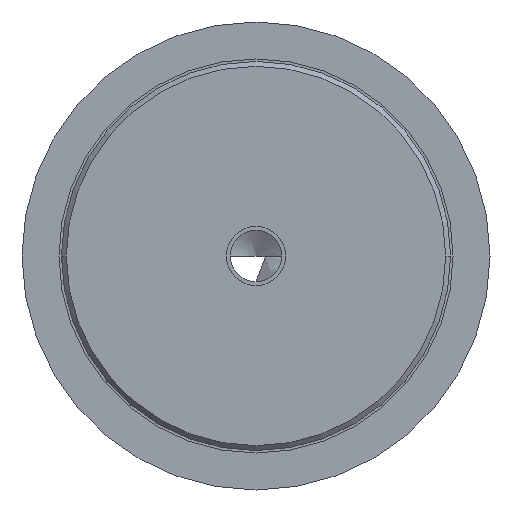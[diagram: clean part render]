
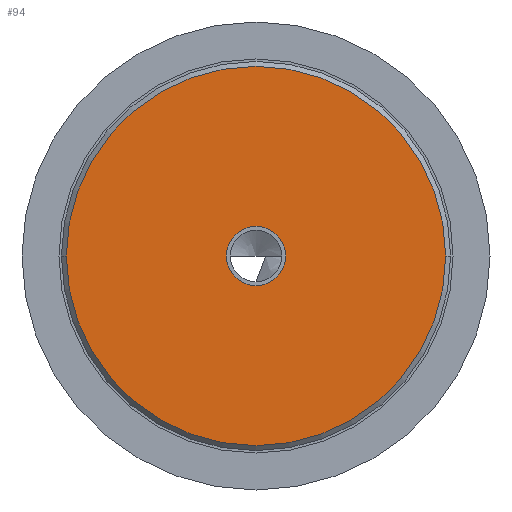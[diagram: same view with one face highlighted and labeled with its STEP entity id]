
A CAD part, left-side view. The second image highlights one B-rep face of the part: STEP entity #94.
In plain terms, the highlighted free-form (B-spline) face has degree [1, 1] with [2, 2] control points.
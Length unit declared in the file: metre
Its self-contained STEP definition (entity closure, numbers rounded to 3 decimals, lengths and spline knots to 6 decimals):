
#94 = ADVANCED_FACE( '', ( #155, #156 ), #157, .F. );
#155 = FACE_BOUND( '', #307, .T. );
#156 = FACE_OUTER_BOUND( '', #308, .T. );
#157 = B_SPLINE_SURFACE_WITH_KNOTS( '', 1, 1, ( ( #309, #310 ), ( #311, #312 ) ), .UNSPECIFIED., .F., .F., .F., ( 2, 2 ), ( 2, 2 ), ( 0., 1. ), ( 0., 1. ), .UNSPECIFIED. );
#307 = EDGE_LOOP( '', ( #503, #504 ) );
#308 = EDGE_LOOP( '', ( #505, #506 ) );
#309 = CARTESIAN_POINT( '', ( 0., -0.038962, -0.038962 ) );
#310 = CARTESIAN_POINT( '', ( 0., -0.038962, 0.038962 ) );
#311 = CARTESIAN_POINT( '', ( 0., 0.038962, -0.038962 ) );
#312 = CARTESIAN_POINT( '', ( 0., 0.038962, 0.038962 ) );
#503 = ORIENTED_EDGE( '', *, *, #686, .F. );
#504 = ORIENTED_EDGE( '', *, *, #684, .F. );
#505 = ORIENTED_EDGE( '', *, *, #689, .F. );
#506 = ORIENTED_EDGE( '', *, *, #690, .F. );
#684 = EDGE_CURVE( '', #778, #780, #781, .T. );
#686 = EDGE_CURVE( '', #780, #778, #783, .T. );
#689 = EDGE_CURVE( '', #787, #788, #789, .T. );
#690 = EDGE_CURVE( '', #788, #787, #790, .T. );
#778 = VERTEX_POINT( '', #910 );
#780 = VERTEX_POINT( '', #913 );
#781 = CIRCLE( '', #914, 0.006 );
#783 = CIRCLE( '', #917, 0.006 );
#787 = VERTEX_POINT( '', #923 );
#788 = VERTEX_POINT( '', #924 );
#789 = CIRCLE( '', #925, 0.0385 );
#790 = CIRCLE( '', #926, 0.0385 );
#910 = CARTESIAN_POINT( '', ( 0., -0.006, 0. ) );
#913 = CARTESIAN_POINT( '', ( 0., 0.006, 0. ) );
#914 = AXIS2_PLACEMENT_3D( '', #1076, #1077, #1078 );
#917 = AXIS2_PLACEMENT_3D( '', #1080, #1081, #1082 );
#923 = CARTESIAN_POINT( '', ( 0., 0.0385, 0. ) );
#924 = CARTESIAN_POINT( '', ( 0., -0.0385, 0. ) );
#925 = AXIS2_PLACEMENT_3D( '', #1085, #1086, #1087 );
#926 = AXIS2_PLACEMENT_3D( '', #1088, #1089, #1090 );
#1076 = CARTESIAN_POINT( '', ( 0., 0., 0. ) );
#1077 = DIRECTION( '', ( -1., 0., 0. ) );
#1078 = DIRECTION( '', ( 0., -1., 0. ) );
#1080 = CARTESIAN_POINT( '', ( 0., 0., 0. ) );
#1081 = DIRECTION( '', ( -1., 0., 0. ) );
#1082 = DIRECTION( '', ( 0., -1., 0. ) );
#1085 = CARTESIAN_POINT( '', ( 0., 0., 0. ) );
#1086 = DIRECTION( '', ( 1., 0., 0. ) );
#1087 = DIRECTION( '', ( 0., 1., 0. ) );
#1088 = CARTESIAN_POINT( '', ( 0., 0., 0. ) );
#1089 = DIRECTION( '', ( 1., 0., 0. ) );
#1090 = DIRECTION( '', ( 0., 1., 0. ) );
